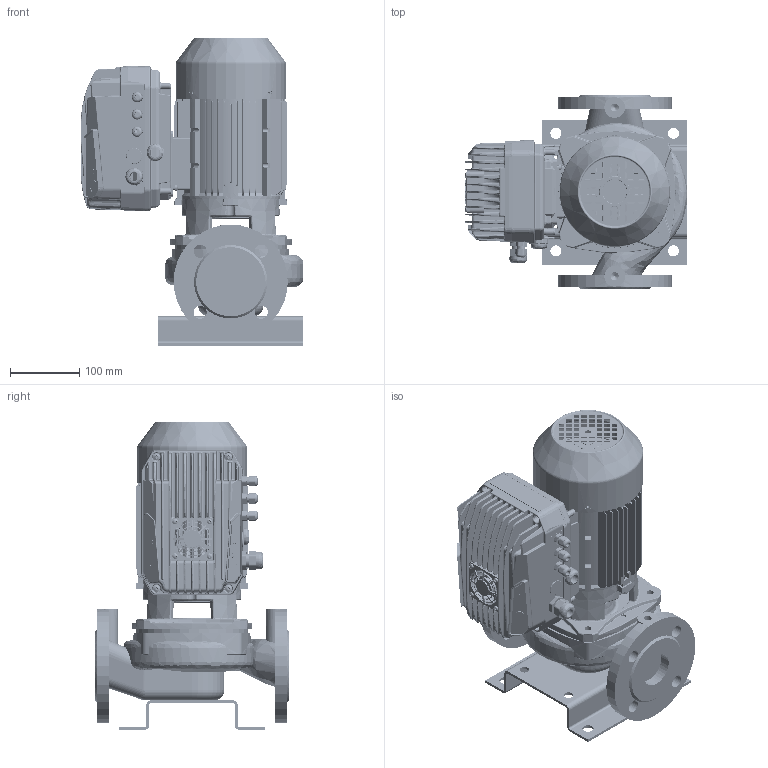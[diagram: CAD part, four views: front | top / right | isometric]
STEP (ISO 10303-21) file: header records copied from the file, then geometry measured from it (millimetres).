
FILE_DESCRIPTION(('STEP AP214'),'1');
FILE_NAME('export.stp','2022-08-29T11:17:47',(' '),(' '),'Spatial InterOp 3D',' ',' ');
FILE_SCHEMA(('AUTOMOTIVE_DESIGN { 1 0 10303 214 1 1 1 1 }'));
Length unit declared in the file: millimetre
Products named in the file (51): W_L50A4_XX_KP802; V_TLL50ABC; V_JALKA35973; V_PPL50ABC; V_AdapMida205_407; 210588; DIN_7985-M5X8; 160031; 160001; V_MKP80-2_F15; M5x8_DIN; 160141; M5x12_DIN; DIN_7985-M5X12; 160137; 160138; 160139; 160140; Koura_Ale_M5; Plug_Blind_M20; Sealing_Plug_M20; plain_washer_grade_a_din_Washer_; 160039___; 160040___; 160133; MIDA_180deg; BASE_MIDA_NASTEC_89; 3005020100_AF0_157; PRT0001; PRT0002; PRT0003; PRT0005; PRT0006; PRT0007; V4-25--_-_U7687_PZ_AF0_5; V4-25--_-_U7687_PZ_AF1_5; V4-25--_-_U7687_PZ_AF2_5; V4-25--_-_U7687_PZ_AF3_5; V5-30--_-_U7687_PZ_AF0_5; V5-30--_-_U7687_PZ_AF1_5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
Assembly tree (54 placements, depth 5):
  W_L50A4_XX_KP802
    V_TLL50ABC
    V_JALKA35973
    V_PPL50ABC
    V_AdapMida205_407
      210588
      DIN_7985-M5X8  x2
    V_MKP80-2_F15
      160031
        160001
      160141
        M5x8_DIN
          DIN_7985-M5X8
        M5x12_DIN
          DIN_7985-M5X12
        M5x12_DIN
          DIN_7985-M5X12
        M5x12_DIN
          DIN_7985-M5X12
        M5x12_DIN
          DIN_7985-M5X12
        160137
        160138
        160139
        160140
        Koura_Ale_M5
        Plug_Blind_M20
        Sealing_Plug_M20
        plain_washer_grade_a_din_Washer_
      160039___
      160040___
      160133
    Mida205
      MIDA_180deg
        BASE_MIDA_NASTEC_89
        3005020100_AF0_157
        PRT0001
        PRT0002
        PRT0003
        PRT0005
        PRT0006
        PRT0007
        V4-25--_-_U7687_PZ_AF0_5
        V4-25--_-_U7687_PZ_AF1_5
        V4-25--_-_U7687_PZ_AF2_5
        V4-25--_-_U7687_PZ_AF3_5
        V5-30--_-_U7687_PZ_AF0_5
        V5-30--_-_U7687_PZ_AF1_5
        V5-30--_-_U7687_PZ_AF2_5
        V5-30--_-_U7687_PZ_5
        2001300200_32
        TASTIERA_MIDA_2_44
        ETICHETTA_MIDA_9
        TAPPO_PRESSACAVO_M20_5
Bounding box: 322 x 280 x 445.5 mm (x, y, z)
Volume: 4432536.9 mm3; surface area: 1521605.1 mm2
Topology: 42 solids, 43 shells, 6583 faces, 16975 edges, 10459 vertices
Faces by surface type: plane 2255, cylinder 2048, bspline 1463, cone 418, torus 332, sphere 67
Entity records: 332947 total; most frequent: CARTESIAN_POINT 157027, ORIENTED_EDGE 33308, DIRECTION 24440, EDGE_CURVE 16658, VERTEX_POINT 10332, AXIS2_PLACEMENT_3D 9010, EDGE_LOOP 7005, LINE 6420
